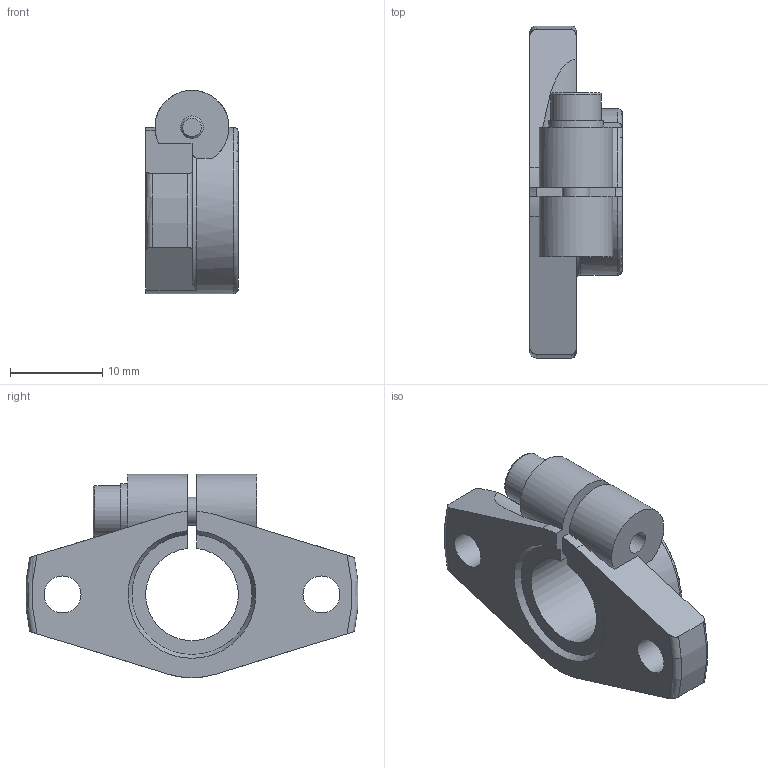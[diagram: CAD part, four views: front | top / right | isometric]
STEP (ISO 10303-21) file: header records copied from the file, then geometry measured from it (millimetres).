
FILE_DESCRIPTION((''),'2;1');
FILE_NAME('D:\製品 (図面)\カタログ用3D\シャフトブロック関連\STEP形式\SF\SF10.stp','2010-06-01T16:24:00',('Tsuchiya'),(''),'Autodesk Inventor 10','Autodesk Inventor 10','');
FILE_SCHEMA(('AUTOMOTIVE_DESIGN { 1 0 10303 214 1 1 1 1 }'));
Length unit declared in the file: millimetre
Products named in the file (1): SF10
Bounding box: 10 x 35.9 x 22 mm (x, y, z)
Volume: 3066.8 mm3; surface area: 2359.6 mm2
Topology: 1 solids, 1 shells, 54 faces, 145 edges, 97 vertices
Faces by surface type: plane 25, cylinder 15, torus 6, cone 4, bspline 4
Full cylindrical faces by diameter (mm): 3 x1, 4 x2, 5.5 x1, 5.9 x1
Entity records: 1951 total; most frequent: CARTESIAN_POINT 683, ORIENTED_EDGE 256, DIRECTION 248, EDGE_CURVE 128, AXIS2_PLACEMENT_3D 99, VERTEX_POINT 90, EDGE_LOOP 74, FACE_OUTER_BOUND 54
